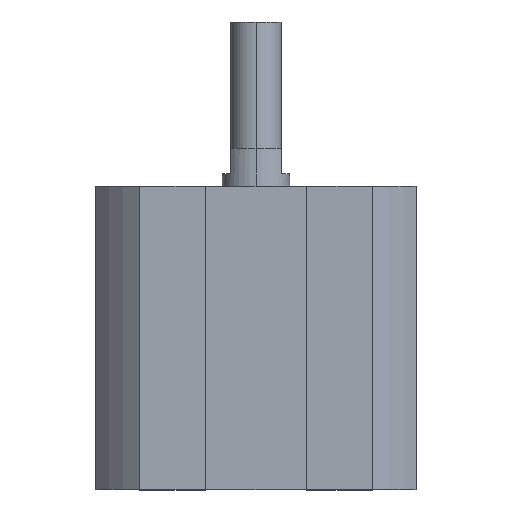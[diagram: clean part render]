
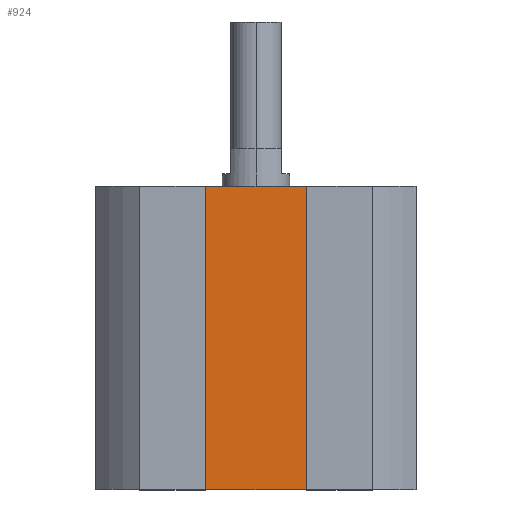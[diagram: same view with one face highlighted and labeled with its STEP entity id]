
A CAD part, top view. The second image highlights one B-rep face of the part: STEP entity #924.
In plain terms, the highlighted planar face has unit normal (0, 0, 1).
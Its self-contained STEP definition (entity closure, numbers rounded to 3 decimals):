
#39 = CARTESIAN_POINT ( 'NONE',  ( 7.75, 0., 12.75 ) ) ;
#100 = ORIENTED_EDGE ( 'NONE', *, *, #524, .F. ) ;
#115 = PLANE ( 'NONE',  #2256 ) ;
#127 = VERTEX_POINT ( 'NONE', #1559 ) ;
#135 = DIRECTION ( 'NONE',  ( 0., 0., 1. ) ) ;
#154 = EDGE_CURVE ( 'NONE', #840, #2166, #1436, .T. ) ;
#206 = EDGE_CURVE ( 'NONE', #840, #127, #1150, .T. ) ;
#250 = FACE_OUTER_BOUND ( 'NONE', #1194, .T. ) ;
#294 = DIRECTION ( 'NONE',  ( 1., 0., 0. ) ) ;
#296 = CARTESIAN_POINT ( 'NONE',  ( -7.75, -36., 12.75 ) ) ;
#367 = CARTESIAN_POINT ( 'NONE',  ( 0., -36., 12.75 ) ) ;
#378 = DIRECTION ( 'NONE',  ( 0., 1., 0. ) ) ;
#524 = EDGE_CURVE ( 'NONE', #2166, #1284, #2526, .T. ) ;
#631 = EDGE_CURVE ( 'NONE', #127, #1284, #2362, .T. ) ;
#840 = VERTEX_POINT ( 'NONE', #296 ) ;
#924 = ADVANCED_FACE ( 'NONE', ( #250 ), #115, .T. ) ;
#956 = ORIENTED_EDGE ( 'NONE', *, *, #631, .T. ) ;
#1120 = VECTOR ( 'NONE', #2621, 1000. ) ;
#1121 = CARTESIAN_POINT ( 'NONE',  ( 0., 0., 12.75 ) ) ;
#1150 = LINE ( 'NONE', #367, #1120 ) ;
#1194 = EDGE_LOOP ( 'NONE', ( #100, #1772, #1736, #956 ) ) ;
#1284 = VERTEX_POINT ( 'NONE', #39 ) ;
#1430 = VECTOR ( 'NONE', #294, 1000. ) ;
#1436 = LINE ( 'NONE', #2274, #1469 ) ;
#1469 = VECTOR ( 'NONE', #378, 1000. ) ;
#1559 = CARTESIAN_POINT ( 'NONE',  ( 7.75, -36., 12.75 ) ) ;
#1565 = DIRECTION ( 'NONE',  ( 1., 0., 0. ) ) ;
#1576 = CARTESIAN_POINT ( 'NONE',  ( 0., -36., 12.75 ) ) ;
#1736 = ORIENTED_EDGE ( 'NONE', *, *, #206, .T. ) ;
#1772 = ORIENTED_EDGE ( 'NONE', *, *, #154, .F. ) ;
#1873 = VECTOR ( 'NONE', #2392, 1000. ) ;
#2063 = CARTESIAN_POINT ( 'NONE',  ( -7.75, 0., 12.75 ) ) ;
#2166 = VERTEX_POINT ( 'NONE', #2063 ) ;
#2256 = AXIS2_PLACEMENT_3D ( 'NONE', #1576, #135, #1565 ) ;
#2274 = CARTESIAN_POINT ( 'NONE',  ( -7.75, -36., 12.75 ) ) ;
#2362 = LINE ( 'NONE', #2385, #1873 ) ;
#2385 = CARTESIAN_POINT ( 'NONE',  ( 7.75, -36., 12.75 ) ) ;
#2392 = DIRECTION ( 'NONE',  ( 0., 1., 0. ) ) ;
#2526 = LINE ( 'NONE', #1121, #1430 ) ;
#2621 = DIRECTION ( 'NONE',  ( 1., 0., 0. ) ) ;
